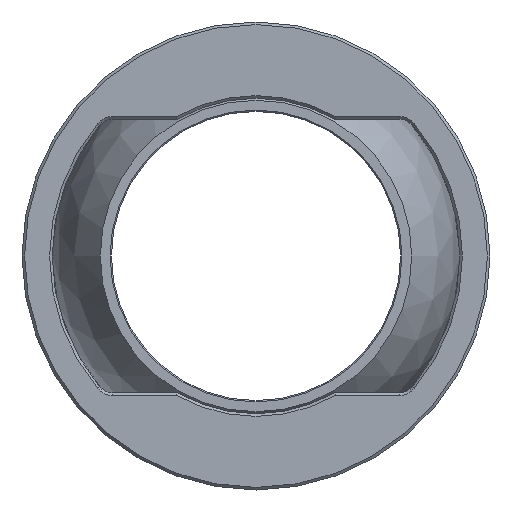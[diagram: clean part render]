
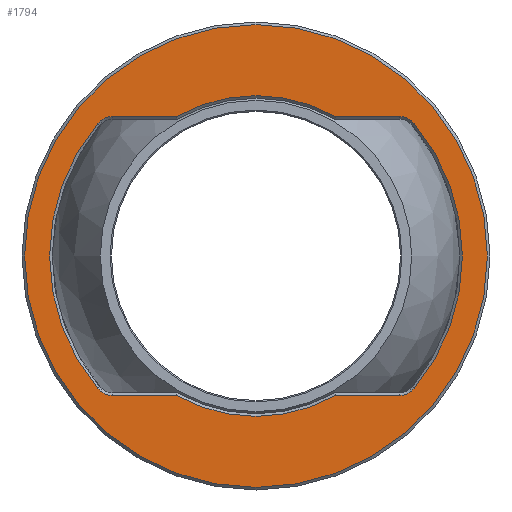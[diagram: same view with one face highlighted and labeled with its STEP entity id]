
A CAD part, front view. The second image highlights one B-rep face of the part: STEP entity #1794.
In plain terms, the highlighted planar face has unit normal (0, -1, 0).
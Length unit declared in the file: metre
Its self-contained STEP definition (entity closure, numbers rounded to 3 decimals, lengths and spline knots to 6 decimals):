
#1794=ADVANCED_FACE('',(#4921,#4922),#4923,.F.);
#4921=FACE_OUTER_BOUND('',#9798,.T.);
#4922=FACE_BOUND('',#9799,.T.);
#4923=PLANE('',#9800);
#9798=EDGE_LOOP('',(#17172));
#9799=EDGE_LOOP('',(#17173,#17174,#17175,#17176,#17177,#17178,#17179,#17180,#17181,#17182,#17183,#17184));
#9800=AXIS2_PLACEMENT_3D('',#17185,#17186,#17187);
#17172=ORIENTED_EDGE('',*,*,#18946,.F.);
#17173=ORIENTED_EDGE('',*,*,#18947,.T.);
#17174=ORIENTED_EDGE('',*,*,#18937,.T.);
#17175=ORIENTED_EDGE('',*,*,#18948,.T.);
#17176=ORIENTED_EDGE('',*,*,#18949,.T.);
#17177=ORIENTED_EDGE('',*,*,#18950,.T.);
#17178=ORIENTED_EDGE('',*,*,#18944,.T.);
#17179=ORIENTED_EDGE('',*,*,#18951,.T.);
#17180=ORIENTED_EDGE('',*,*,#18952,.T.);
#17181=ORIENTED_EDGE('',*,*,#18953,.T.);
#17182=ORIENTED_EDGE('',*,*,#18954,.T.);
#17183=ORIENTED_EDGE('',*,*,#18955,.T.);
#17184=ORIENTED_EDGE('',*,*,#18956,.T.);
#17185=CARTESIAN_POINT('',(0.384081,0.273603,0.0));
#17186=DIRECTION('',(0.0,1.0,0.0));
#17187=DIRECTION('',(0.0,0.0,1.0));
#18937=EDGE_CURVE('',#19084,#19081,#19085,.T.);
#18944=EDGE_CURVE('',#19090,#19095,#19097,.T.);
#18946=EDGE_CURVE('',#19099,#19099,#19100,.T.);
#18947=EDGE_CURVE('',#19101,#19084,#19102,.T.);
#18948=EDGE_CURVE('',#19081,#19103,#19104,.T.);
#18949=EDGE_CURVE('',#19103,#19105,#19106,.T.);
#18950=EDGE_CURVE('',#19105,#19090,#19107,.T.);
#18951=EDGE_CURVE('',#19095,#19108,#19109,.T.);
#18952=EDGE_CURVE('',#19108,#19110,#19111,.T.);
#18953=EDGE_CURVE('',#19110,#19112,#19113,.T.);
#18954=EDGE_CURVE('',#19112,#19114,#19115,.T.);
#18955=EDGE_CURVE('',#19114,#19116,#19117,.T.);
#18956=EDGE_CURVE('',#19116,#19101,#19118,.T.);
#19081=VERTEX_POINT('',#19280);
#19084=VERTEX_POINT('',#19286);
#19085=LINE('',#19287,#19288);
#19090=VERTEX_POINT('',#19295);
#19095=VERTEX_POINT('',#19301);
#19097=CIRCLE('',#19304,0.0785);
#19099=VERTEX_POINT('',#19306);
#19100=CIRCLE('',#19307,0.088);
#19101=VERTEX_POINT('',#19308);
#19102=CIRCLE('',#19309,0.007);
#19103=VERTEX_POINT('',#19310);
#19104=CIRCLE('',#19311,0.061);
#19105=VERTEX_POINT('',#19312);
#19106=LINE('',#19313,#19314);
#19107=CIRCLE('',#19315,0.007);
#19108=VERTEX_POINT('',#19316);
#19109=CIRCLE('',#19317,0.007);
#19110=VERTEX_POINT('',#19318);
#19111=LINE('',#19319,#19320);
#19112=VERTEX_POINT('',#19321);
#19113=CIRCLE('',#19322,0.061);
#19114=VERTEX_POINT('',#19323);
#19115=LINE('',#19324,#19325);
#19116=VERTEX_POINT('',#19326);
#19117=CIRCLE('',#19327,0.007);
#19118=CIRCLE('',#19328,0.0785);
#19280=CARTESIAN_POINT('',(0.414881,0.273603,0.053));
#19286=CARTESIAN_POINT('',(0.390343,0.273603,0.053));
#19287=CARTESIAN_POINT('',(0.41319,0.273603,0.053));
#19288=VECTOR('',#19566,1.0);
#19295=CARTESIAN_POINT('',(0.505178,0.273603,0.050503));
#19301=CARTESIAN_POINT('',(0.505178,0.273603,-0.050503));
#19304=AXIS2_PLACEMENT_3D('',#19574,#19575,#19576);
#19306=CARTESIAN_POINT('',(0.445081,0.273603,0.088));
#19307=AXIS2_PLACEMENT_3D('',#19577,#19578,#19579);
#19308=CARTESIAN_POINT('',(0.384984,0.273603,0.050503));
#19309=AXIS2_PLACEMENT_3D('',#19580,#19581,#19582);
#19310=CARTESIAN_POINT('',(0.47528,0.273603,0.053));
#19311=AXIS2_PLACEMENT_3D('',#19583,#19584,#19585);
#19312=CARTESIAN_POINT('',(0.499819,0.273603,0.053));
#19313=CARTESIAN_POINT('',(0.499819,0.273603,0.053));
#19314=VECTOR('',#19586,1.0);
#19315=AXIS2_PLACEMENT_3D('',#19587,#19588,#19589);
#19316=CARTESIAN_POINT('',(0.499819,0.273603,-0.053));
#19317=AXIS2_PLACEMENT_3D('',#19590,#19591,#19592);
#19318=CARTESIAN_POINT('',(0.47528,0.273603,-0.053));
#19319=CARTESIAN_POINT('',(0.476971,0.273603,-0.053));
#19320=VECTOR('',#19593,1.0);
#19321=CARTESIAN_POINT('',(0.414881,0.273603,-0.053));
#19322=AXIS2_PLACEMENT_3D('',#19594,#19595,#19596);
#19323=CARTESIAN_POINT('',(0.390343,0.273603,-0.053));
#19324=CARTESIAN_POINT('',(0.390343,0.273603,-0.053));
#19325=VECTOR('',#19597,1.0);
#19326=CARTESIAN_POINT('',(0.384984,0.273603,-0.050503));
#19327=AXIS2_PLACEMENT_3D('',#19598,#19599,#19600);
#19328=AXIS2_PLACEMENT_3D('',#19601,#19602,#19603);
#19566=DIRECTION('',(1.0,0.0,0.));
#19574=CARTESIAN_POINT('',(0.445081,0.273603,0.));
#19575=DIRECTION('',(0.0,1.0,0.0));
#19576=DIRECTION('',(0.0,0.0,1.0));
#19577=CARTESIAN_POINT('',(0.445081,0.273603,0.0));
#19578=DIRECTION('',(0.0,1.0,0.0));
#19579=DIRECTION('',(0.0,0.0,1.0));
#19580=CARTESIAN_POINT('',(0.390343,0.273603,0.046));
#19581=DIRECTION('',(0.0,1.0,0.0));
#19582=DIRECTION('',(0.0,0.0,1.0));
#19583=CARTESIAN_POINT('',(0.445081,0.273603,0.0));
#19584=DIRECTION('',(0.0,1.0,0.0));
#19585=DIRECTION('',(0.0,0.0,1.0));
#19586=DIRECTION('',(1.0,0.0,0.));
#19587=CARTESIAN_POINT('',(0.499819,0.273603,0.046));
#19588=DIRECTION('',(0.0,1.0,0.0));
#19589=DIRECTION('',(0.0,0.0,1.0));
#19590=CARTESIAN_POINT('',(0.499819,0.273603,-0.046));
#19591=DIRECTION('',(0.0,1.0,0.0));
#19592=DIRECTION('',(0.0,0.0,1.0));
#19593=DIRECTION('',(-1.0,0.0,0.));
#19594=CARTESIAN_POINT('',(0.445081,0.273603,0.0));
#19595=DIRECTION('',(0.0,1.0,0.0));
#19596=DIRECTION('',(0.0,0.0,1.0));
#19597=DIRECTION('',(-1.0,0.0,0.));
#19598=CARTESIAN_POINT('',(0.390343,0.273603,-0.046));
#19599=DIRECTION('',(0.0,1.0,0.0));
#19600=DIRECTION('',(0.0,0.0,1.0));
#19601=CARTESIAN_POINT('',(0.445081,0.273603,0.));
#19602=DIRECTION('',(0.0,1.0,0.0));
#19603=DIRECTION('',(0.0,0.0,1.0));
